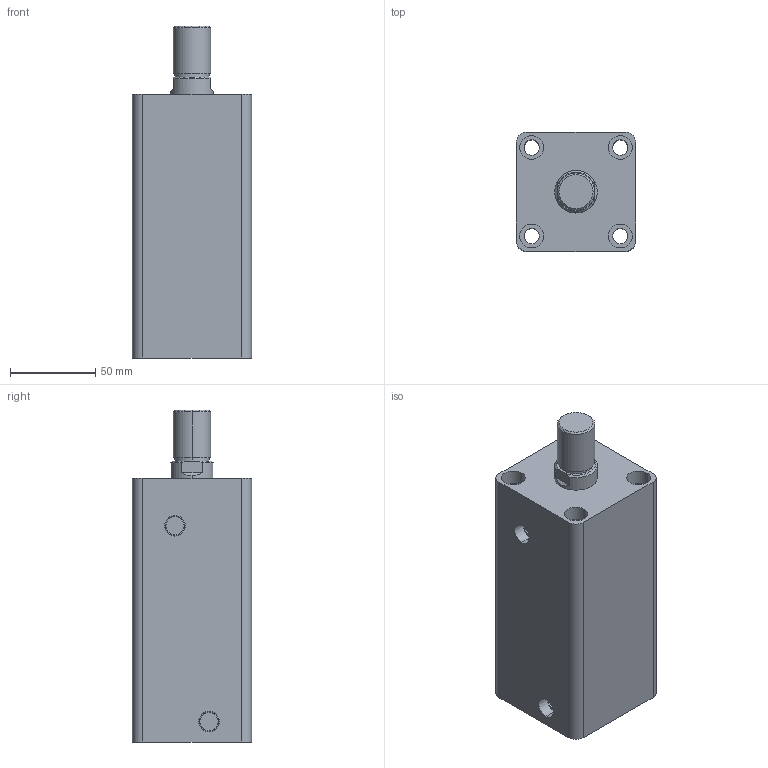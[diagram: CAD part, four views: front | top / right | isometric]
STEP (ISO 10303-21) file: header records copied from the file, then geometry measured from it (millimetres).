
FILE_DESCRIPTION (( 'STEP AP203' ), '1' );
FILE_NAME ('HTB-SD40-100W.STEP', '2019-10-07T06:59:07', ( '微软用户' ), ( '微软中国' ), 'SwSTEP 2.0', 'SolidWorks 2012', '' );
FILE_SCHEMA (( 'CONFIG_CONTROL_DESIGN' ));
Length unit declared in the file: millimetre
Products named in the file (3): HTB-SD40-100W活塞杆; HTB-SD40-100W; HTB-SD40-100掛极
Assembly tree (2 placements, depth 2):
  HTB-SD40-100W
    HTB-SD40-100掛极
    HTB-SD40-100W活塞杆
Bounding box: 70 x 70 x 195 mm (x, y, z)
Volume: 646170.3 mm3; surface area: 106427.9 mm2
Topology: 2 solids, 2 shells, 85 faces, 186 edges, 122 vertices
Faces by surface type: cylinder 44, plane 29, cone 8, torus 4
Entity records: 2709 total; most frequent: DIRECTION 466, CARTESIAN_POINT 426, ORIENTED_EDGE 372, AXIS2_PLACEMENT_3D 198, EDGE_CURVE 186, VERTEX_POINT 122, EDGE_LOOP 110, CIRCLE 108
